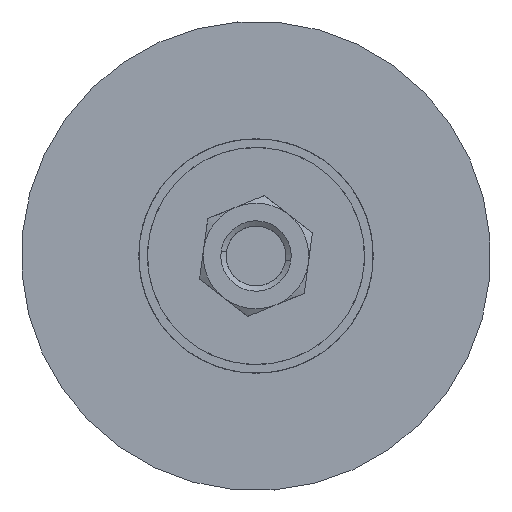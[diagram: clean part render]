
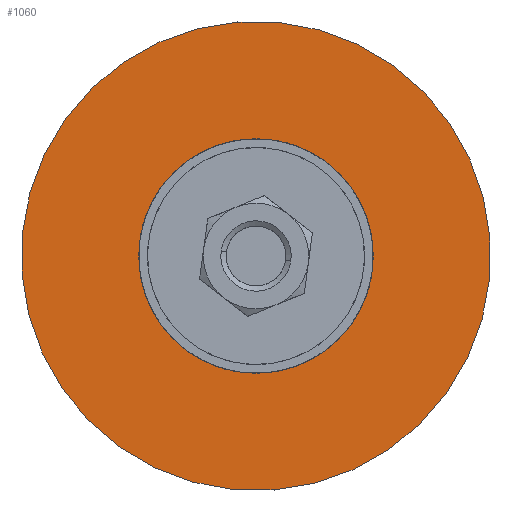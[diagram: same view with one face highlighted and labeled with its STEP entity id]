
A CAD part, left-side view. The second image highlights one B-rep face of the part: STEP entity #1060.
In plain terms, the highlighted planar face has unit normal (-1, 0, 0) as drawn and (0, 1, 0) by its records, which use the part's own axes.
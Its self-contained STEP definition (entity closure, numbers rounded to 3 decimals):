
#31 = DIRECTION ( 'NONE',  ( 0., 1., 0. ) ) ;
#231 = EDGE_CURVE ( 'NONE', #4952, #259, #5067, .T. ) ;
#259 = VERTEX_POINT ( 'NONE', #6689 ) ;
#1040 = CARTESIAN_POINT ( 'NONE',  ( 0., 60., 0. ) ) ;
#1060 = ADVANCED_FACE ( 'NONE', ( #8300, #6610 ), #2603, .F. ) ;
#1162 = DIRECTION ( 'NONE',  ( 0., 1., 0. ) ) ;
#1186 = CARTESIAN_POINT ( 'NONE',  ( 40., 60., 0. ) ) ;
#1401 = VERTEX_POINT ( 'NONE', #4043 ) ;
#2091 = DIRECTION ( 'NONE',  ( 1., 0., 0. ) ) ;
#2114 = DIRECTION ( 'NONE',  ( 1., 0., 0. ) ) ;
#2153 = DIRECTION ( 'NONE',  ( 1., 0., 0. ) ) ;
#2603 = PLANE ( 'NONE',  #10797 ) ;
#2694 = DIRECTION ( 'NONE',  ( 0., 0., -1. ) ) ;
#2927 = ORIENTED_EDGE ( 'NONE', *, *, #12111, .F. ) ;
#2987 = CIRCLE ( 'NONE', #8329, 40. ) ;
#3540 = CIRCLE ( 'NONE', #5145, 20. ) ;
#4043 = CARTESIAN_POINT ( 'NONE',  ( -20., 60., 0. ) ) ;
#4073 = CARTESIAN_POINT ( 'NONE',  ( 0., 60., 0. ) ) ;
#4487 = EDGE_LOOP ( 'NONE', ( #11266, #9902 ) ) ;
#4549 = DIRECTION ( 'NONE',  ( 0., -1., 0. ) ) ;
#4680 = CARTESIAN_POINT ( 'NONE',  ( 0., 60., 0. ) ) ;
#4952 = VERTEX_POINT ( 'NONE', #1186 ) ;
#5004 = AXIS2_PLACEMENT_3D ( 'NONE', #4680, #11571, #7665 ) ;
#5059 = DIRECTION ( 'NONE',  ( 0., 1., 0. ) ) ;
#5067 = CIRCLE ( 'NONE', #5004, 40. ) ;
#5112 = VERTEX_POINT ( 'NONE', #9496 ) ;
#5145 = AXIS2_PLACEMENT_3D ( 'NONE', #4073, #5059, #2153 ) ;
#5390 = EDGE_CURVE ( 'NONE', #259, #4952, #2987, .T. ) ;
#5625 = CIRCLE ( 'NONE', #6171, 20. ) ;
#5987 = EDGE_CURVE ( 'NONE', #5112, #1401, #5625, .T. ) ;
#6171 = AXIS2_PLACEMENT_3D ( 'NONE', #1040, #1162, #2114 ) ;
#6610 = FACE_OUTER_BOUND ( 'NONE', #4487, .T. ) ;
#6689 = CARTESIAN_POINT ( 'NONE',  ( -40., 60., 0. ) ) ;
#7665 = DIRECTION ( 'NONE',  ( 1., 0., 0. ) ) ;
#8035 = CARTESIAN_POINT ( 'NONE',  ( 0., 60., 0. ) ) ;
#8300 = FACE_BOUND ( 'NONE', #12543, .T. ) ;
#8329 = AXIS2_PLACEMENT_3D ( 'NONE', #8035, #31, #2091 ) ;
#8629 = CARTESIAN_POINT ( 'NONE',  ( -40.48, 60., 40.48 ) ) ;
#9496 = CARTESIAN_POINT ( 'NONE',  ( 20., 60., 0. ) ) ;
#9902 = ORIENTED_EDGE ( 'NONE', *, *, #5390, .T. ) ;
#10797 = AXIS2_PLACEMENT_3D ( 'NONE', #8629, #4549, #2694 ) ;
#11266 = ORIENTED_EDGE ( 'NONE', *, *, #231, .T. ) ;
#11422 = ORIENTED_EDGE ( 'NONE', *, *, #5987, .F. ) ;
#11571 = DIRECTION ( 'NONE',  ( 0., 1., 0. ) ) ;
#12111 = EDGE_CURVE ( 'NONE', #1401, #5112, #3540, .T. ) ;
#12543 = EDGE_LOOP ( 'NONE', ( #11422, #2927 ) ) ;
